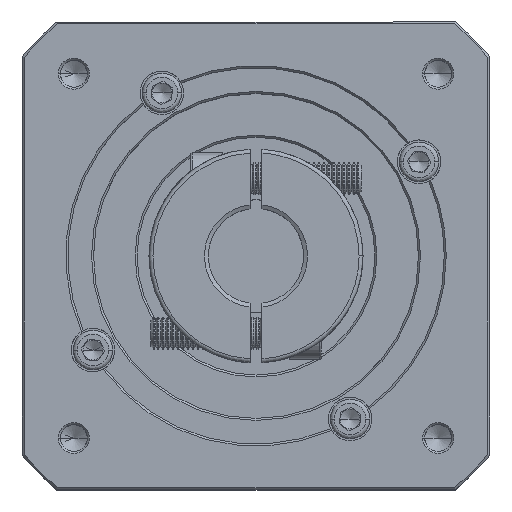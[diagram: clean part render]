
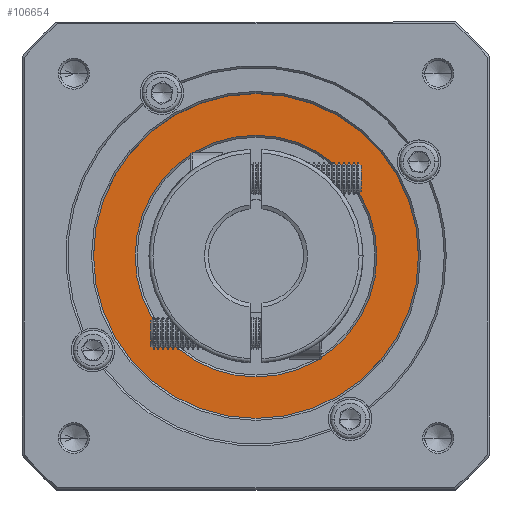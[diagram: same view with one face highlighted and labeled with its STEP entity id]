
A CAD part, top view. The second image highlights one B-rep face of the part: STEP entity #106654.
In plain terms, the highlighted planar face has unit normal (0, 0, 1).
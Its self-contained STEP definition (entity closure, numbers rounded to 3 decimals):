
#227 = DIRECTION ( 'NONE',  ( 1., 0., 0. ) ) ;
#1059 = CARTESIAN_POINT ( 'NONE',  ( 69.096, 90.323, 36.003 ) ) ;
#4836 = DIRECTION ( 'NONE',  ( 0., 0., -1. ) ) ;
#5288 = DIRECTION ( 'NONE',  ( 0., 0., 1. ) ) ;
#8166 = VERTEX_POINT ( 'NONE', #38047 ) ;
#9969 = CIRCLE ( 'NONE', #113522, 30.5 ) ;
#10038 = EDGE_LOOP ( 'NONE', ( #113626, #40851 ) ) ;
#10082 = DIRECTION ( 'NONE',  ( 0., -1., 0. ) ) ;
#13897 = AXIS2_PLACEMENT_3D ( 'NONE', #59187, #5288, #68187 ) ;
#14677 = ORIENTED_EDGE ( 'NONE', *, *, #19318, .T. ) ;
#19318 = EDGE_CURVE ( 'NONE', #30760, #23531, #39570, .T. ) ;
#20695 = CIRCLE ( 'NONE', #89456, 30.5 ) ;
#23531 = VERTEX_POINT ( 'NONE', #105837 ) ;
#25139 = FACE_BOUND ( 'NONE', #10038, .T. ) ;
#30041 = AXIS2_PLACEMENT_3D ( 'NONE', #108031, #54106, #227 ) ;
#30760 = VERTEX_POINT ( 'NONE', #46023 ) ;
#35247 = ORIENTED_EDGE ( 'NONE', *, *, #62132, .T. ) ;
#38047 = CARTESIAN_POINT ( 'NONE',  ( 69.096, 120.823, 36.003 ) ) ;
#39570 = CIRCLE ( 'NONE', #13897, 41. ) ;
#40030 = EDGE_CURVE ( 'NONE', #8166, #48745, #20695, .T. ) ;
#40851 = ORIENTED_EDGE ( 'NONE', *, *, #40030, .T. ) ;
#44278 = CARTESIAN_POINT ( 'NONE',  ( 69.096, 90.323, 36.003 ) ) ;
#46023 = CARTESIAN_POINT ( 'NONE',  ( 28.096, 90.323, 36.003 ) ) ;
#48745 = VERTEX_POINT ( 'NONE', #79279 ) ;
#53359 = DIRECTION ( 'NONE',  ( 1., 0., 0. ) ) ;
#54106 = DIRECTION ( 'NONE',  ( 0., 0., 1. ) ) ;
#57894 = CIRCLE ( 'NONE', #97271, 41. ) ;
#58755 = CARTESIAN_POINT ( 'NONE',  ( 69.096, 90.323, 36.003 ) ) ;
#59187 = CARTESIAN_POINT ( 'NONE',  ( 69.096, 90.323, 36.003 ) ) ;
#59251 = EDGE_CURVE ( 'NONE', #48745, #8166, #9969, .T. ) ;
#62132 = EDGE_CURVE ( 'NONE', #23531, #30760, #57894, .T. ) ;
#63993 = DIRECTION ( 'NONE',  ( 0., 0., -1. ) ) ;
#67749 = DIRECTION ( 'NONE',  ( 0., -1., 0. ) ) ;
#68187 = DIRECTION ( 'NONE',  ( 1., 0., 0. ) ) ;
#70126 = FACE_OUTER_BOUND ( 'NONE', #82677, .T. ) ;
#71801 = PLANE ( 'NONE',  #30041 ) ;
#79279 = CARTESIAN_POINT ( 'NONE',  ( 69.096, 59.823, 36.003 ) ) ;
#82677 = EDGE_LOOP ( 'NONE', ( #35247, #14677 ) ) ;
#89456 = AXIS2_PLACEMENT_3D ( 'NONE', #58755, #4836, #67749 ) ;
#97271 = AXIS2_PLACEMENT_3D ( 'NONE', #44278, #107262, #53359 ) ;
#105837 = CARTESIAN_POINT ( 'NONE',  ( 110.096, 90.323, 36.003 ) ) ;
#106654 = ADVANCED_FACE ( 'NONE', ( #70126, #25139 ), #71801, .T. ) ;
#107262 = DIRECTION ( 'NONE',  ( 0., 0., 1. ) ) ;
#108031 = CARTESIAN_POINT ( 'NONE',  ( 69.096, 90.323, 36.003 ) ) ;
#113522 = AXIS2_PLACEMENT_3D ( 'NONE', #1059, #63993, #10082 ) ;
#113626 = ORIENTED_EDGE ( 'NONE', *, *, #59251, .T. ) ;
